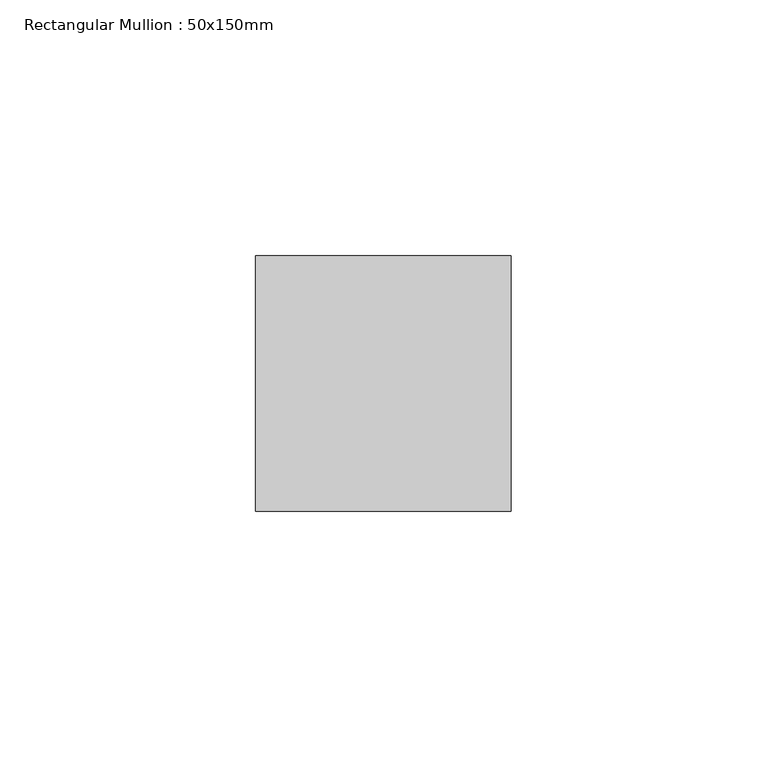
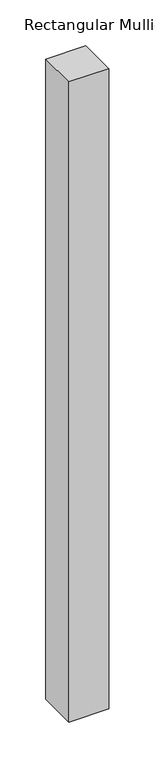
"""IFC4 building model written with IfcOpenShell, lengths in millimetres: member geometry, Rectangular Mullion : 50x150mm."""

from ifc_helpers import new_model, si_unit, frame, origin, place, context, project, spatial, polyline, outline, extrude, source, transform, mapped, element, save


def rectangular_mullion_50x150mm_c05da0b8(model_context):
    return source(origin(), model_context, "Body", "SweptSolid", [
        extrude(outline(polyline([(0.0, 25.0), (0.0, -25.0), (-50.0, -25.0), (-50.0, 25.0), (0.0, 25.0)])), frame((0.0, 0.0, -850.0), z_axis=(0.0, 0.0, 1.0), x_axis=(1.0, 0.0, 0.0)), (0.0, 0.0, 1.0), 850.0),
    ])


if __name__ == "__main__":
    model = new_model("IFC4")
    model_context = context("Model", 3, world=origin())
    ifc_project = project(units=[si_unit("LENGTHUNIT", "METRE", prefix="MILLI")], contexts=[model_context])
    site = spatial("IfcSite", under=ifc_project)
    building = spatial("IfcBuilding", under=site)
    placement = place(None, origin())
    rectangular_mullion_50x150mm_shape = rectangular_mullion_50x150mm_c05da0b8(model_context)
    element("IfcMember", 1, ObjectType="Rectangular Mullion : 50x150mm", at=placement, inside=building, context=model_context, shape_type="MappedRepresentation", body=[
        mapped(rectangular_mullion_50x150mm_shape, transform((0.0, 0.0, 0.0), x_axis=(1.0, 0.0, 0.0), y_axis=(0.0, 1.0, 0.0), z_axis=(0.0, 0.0, 1.0))),
    ])
    save(model, "model.ifc")
